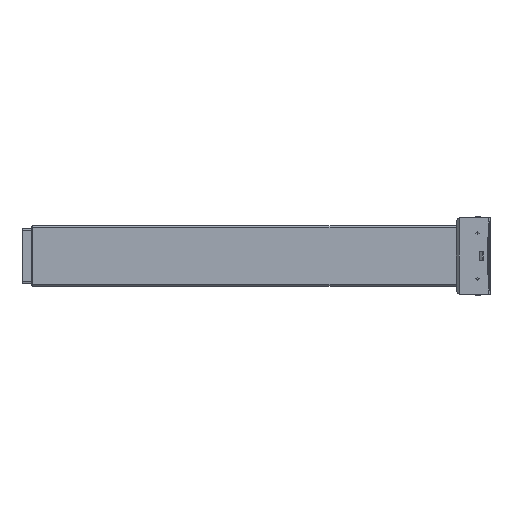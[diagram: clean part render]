
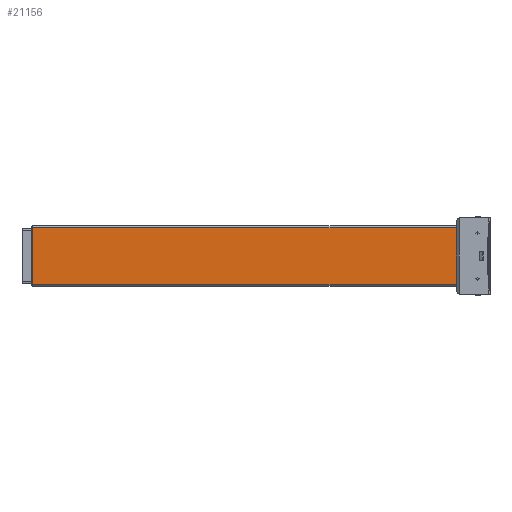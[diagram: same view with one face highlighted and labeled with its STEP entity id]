
A CAD part, left-side view. The second image highlights one B-rep face of the part: STEP entity #21156.
In plain terms, the highlighted planar face has unit normal (-1, 0, 0).
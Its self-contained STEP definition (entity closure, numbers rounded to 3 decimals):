
#192 = ORIENTED_EDGE ( 'NONE', *, *, #38262, .T. ) ;
#2064 = AXIS2_PLACEMENT_3D ( 'NONE', #20281, #52481, #4120 ) ;
#3602 = VERTEX_POINT ( 'NONE', #33702 ) ;
#4120 = DIRECTION ( 'NONE',  ( 0., 0., -1. ) ) ;
#6268 = EDGE_CURVE ( 'NONE', #3602, #40749, #20816, .T. ) ;
#7838 = LINE ( 'NONE', #23663, #10363 ) ;
#10363 = VECTOR ( 'NONE', #39276, 1000. ) ;
#13357 = PLANE ( 'NONE',  #2064 ) ;
#13491 = EDGE_LOOP ( 'NONE', ( #192, #22533, #51900, #39050 ) ) ;
#15004 = VERTEX_POINT ( 'NONE', #19145 ) ;
#15543 = CARTESIAN_POINT ( 'NONE',  ( -26.5, 3., 39. ) ) ;
#16828 = VERTEX_POINT ( 'NONE', #15543 ) ;
#19145 = CARTESIAN_POINT ( 'NONE',  ( -26.5, 3., -39. ) ) ;
#20281 = CARTESIAN_POINT ( 'NONE',  ( -26.5, 586.5, 41.5 ) ) ;
#20816 = LINE ( 'NONE', #45937, #22678 ) ;
#21156 = ADVANCED_FACE ( 'NONE', ( #44699 ), #13357, .F. ) ;
#21401 = DIRECTION ( 'NONE',  ( 0., 0., 1. ) ) ;
#21534 = VECTOR ( 'NONE', #44088, 1000. ) ;
#22533 = ORIENTED_EDGE ( 'NONE', *, *, #25747, .F. ) ;
#22678 = VECTOR ( 'NONE', #21401, 1000. ) ;
#23663 = CARTESIAN_POINT ( 'NONE',  ( -26.5, 3., -39. ) ) ;
#25747 = EDGE_CURVE ( 'NONE', #16828, #15004, #7838, .T. ) ;
#27187 = CARTESIAN_POINT ( 'NONE',  ( -26.5, 586.5, -39. ) ) ;
#31437 = DIRECTION ( 'NONE',  ( 0., -1., 0. ) ) ;
#31861 = CARTESIAN_POINT ( 'NONE',  ( -26.5, 586.5, 39. ) ) ;
#33702 = CARTESIAN_POINT ( 'NONE',  ( -26.5, 586.5, -39. ) ) ;
#34048 = LINE ( 'NONE', #27187, #37851 ) ;
#34941 = EDGE_CURVE ( 'NONE', #16828, #40749, #48919, .T. ) ;
#37601 = CARTESIAN_POINT ( 'NONE',  ( -26.5, 586.5, 39. ) ) ;
#37851 = VECTOR ( 'NONE', #31437, 1000. ) ;
#38262 = EDGE_CURVE ( 'NONE', #3602, #15004, #34048, .T. ) ;
#39050 = ORIENTED_EDGE ( 'NONE', *, *, #6268, .F. ) ;
#39276 = DIRECTION ( 'NONE',  ( 0., 0., -1. ) ) ;
#40749 = VERTEX_POINT ( 'NONE', #37601 ) ;
#44088 = DIRECTION ( 'NONE',  ( 0., 1., 0. ) ) ;
#44699 = FACE_OUTER_BOUND ( 'NONE', #13491, .T. ) ;
#45937 = CARTESIAN_POINT ( 'NONE',  ( -26.5, 586.5, 41.5 ) ) ;
#48919 = LINE ( 'NONE', #31861, #21534 ) ;
#51900 = ORIENTED_EDGE ( 'NONE', *, *, #34941, .T. ) ;
#52481 = DIRECTION ( 'NONE',  ( 1., 0., 0. ) ) ;
